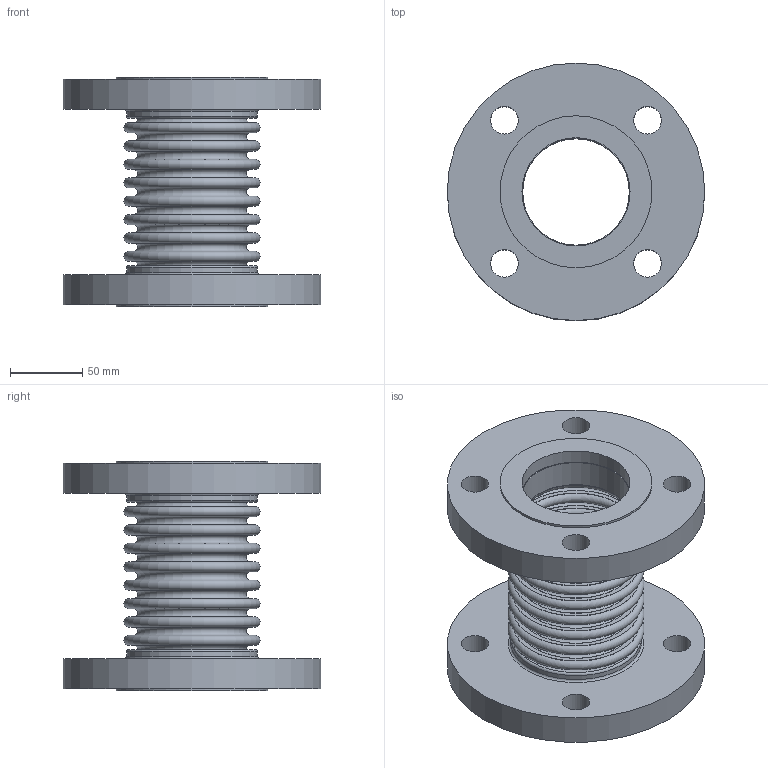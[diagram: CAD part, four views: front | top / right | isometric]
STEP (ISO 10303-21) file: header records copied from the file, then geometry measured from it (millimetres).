
FILE_DESCRIPTION(/* description */ ('EXPANSION JOINT,SINGLE, FLANGED ENDS,2 1/2 INCH NOMINAL','CAx-IF Rec.Pracs.---Representation and Presentation of Product Manufacturing Information (PMI)---4.0---2014-10-13'),/* implementation_level */ '2;1');
FILE_NAME(/* name */ 'US-02.5-12-300S-FLANGED ENDS.stp',/* time_stamp */ '2026-07-31T16:39:58-05:00',/* author */ ('Guadalupe'),/* organization */ (''),/* preprocessor_version */ 'ST-DEVELOPER v20.1',/* originating_system */ 'Autodesk Inventor 2026',/* authorisation */ '');
FILE_SCHEMA (('AP242_MANAGED_MODEL_BASED_3D_ENGINEERING_MIM_LF { 1 0 10303 442 2 1 4 }'));
Length unit declared in the file: inch
Products named in the file (3): 02.5-300S; 02.5-300S-02; 02.5-300S-01
Assembly tree (3 placements, depth 2):
  02.5-300S
    02.5-300S-02  x2
    02.5-300S-01
Bounding box: 177.8 x 177.8 x 158.5 mm (x, y, z)
Volume: 872708 mm3; surface area: 256938.3 mm2
Topology: 5 solids, 5 shells, 104 faces, 174 edges, 116 vertices
Faces by surface type: plane 46, torus 38, cylinder 20
Full cylindrical faces by diameter (mm): 19.05 x8, 73.66 x2, 74.676 x2, 74.879 x2, 90.424 x2, 104.902 x2, 177.8 x2
Entity records: 2402 total; most frequent: DIRECTION 494, CARTESIAN_POINT 353, ORIENTED_EDGE 288, AXIS2_PLACEMENT_3D 241, EDGE_CURVE 144, EDGE_LOOP 140, CIRCLE 132, VERTEX_POINT 96
